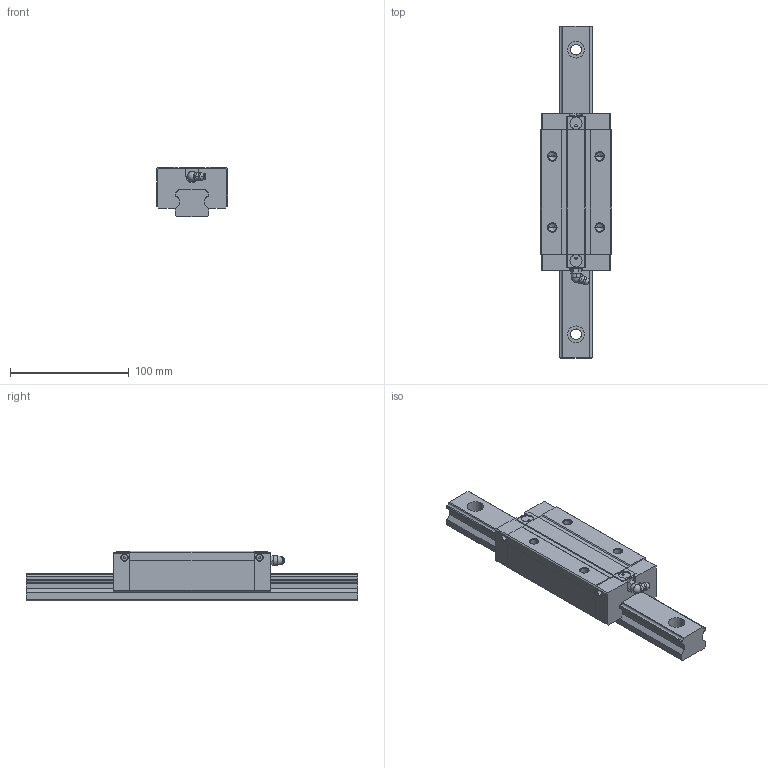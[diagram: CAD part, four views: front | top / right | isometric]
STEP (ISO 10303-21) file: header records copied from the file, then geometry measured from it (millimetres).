
FILE_DESCRIPTION((''),'1');
FILE_NAME(' ',' ',(''),(''),'ACIS Interop R16','Kubotek KeyCreator V6.5.2 (0407)',' ');
FILE_SCHEMA(('CONFIG_CONTROL_DESIGN'));
Length unit declared in the file: millimetre
Products named in the file (3): 1; 2; 3
Bounding box: 60 x 280 x 42 mm (x, y, z)
Volume: 370225.5 mm3; surface area: 68070.3 mm2
Topology: 3 solids, 3 shells, 232 faces, 623 edges, 409 vertices
Faces by surface type: plane 117, cylinder 74, cone 26, torus 10, sphere 3, bspline 2
Entity records: 7558 total; most frequent: CARTESIAN_POINT 1539, DIRECTION 1240, ORIENTED_EDGE 1226, EDGE_CURVE 613, AXIS2_PLACEMENT_3D 442, VERTEX_POINT 409, LINE 356, VECTOR 356
